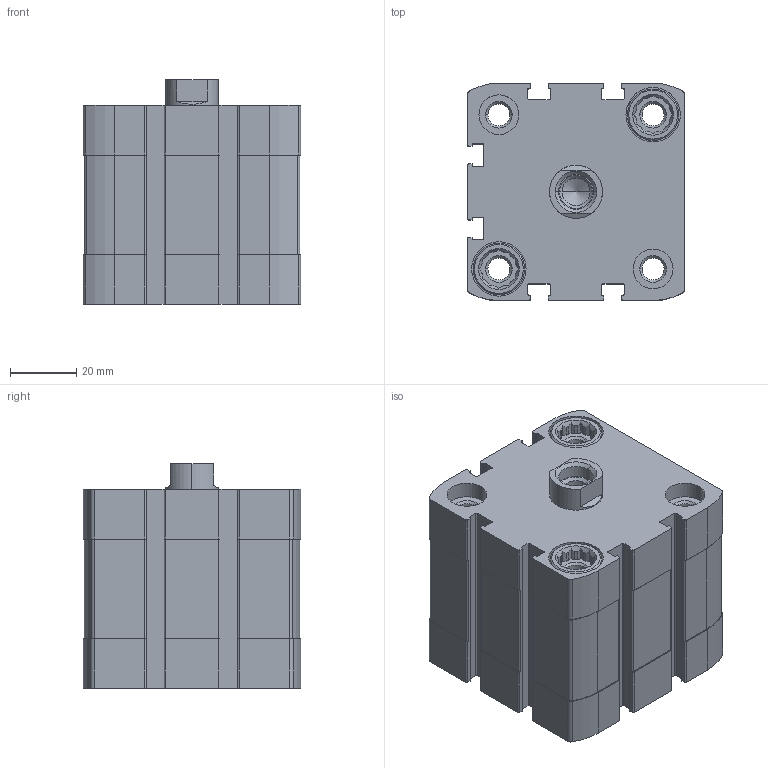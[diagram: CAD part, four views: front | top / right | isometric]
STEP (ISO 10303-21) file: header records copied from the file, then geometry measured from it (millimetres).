
FILE_DESCRIPTION (( 'STEP AP203' ), '1' );
FILE_NAME ('CCN50-15F.STEP', '2017-04-06T12:54:58', ( '' ), ( '' ), 'SwSTEP 2.0', 'SolidWorks 2016', '' );
FILE_SCHEMA (( 'CONFIG_CONTROL_DESIGN' ));
Length unit declared in the file: millimetre
Products named in the file (3): CCN-15----(Z); CCN-15_(KS); CCN50-15F
Assembly tree (2 placements, depth 2):
  CCN50-15F
    CCN-15----(Z)
    CCN-15_(KS)
Bounding box: 65.5 x 65.5 x 67.7 mm (x, y, z)
Volume: 201858.5 mm3; surface area: 53920.7 mm2
Topology: 2 solids, 2 shells, 471 faces, 1276 edges, 839 vertices
Faces by surface type: plane 219, cylinder 210, cone 42
Entity records: 15329 total; most frequent: CARTESIAN_POINT 2883, DIRECTION 2600, ORIENTED_EDGE 2548, EDGE_CURVE 1274, AXIS2_PLACEMENT_3D 948, VERTEX_POINT 839, LINE 704, VECTOR 704
